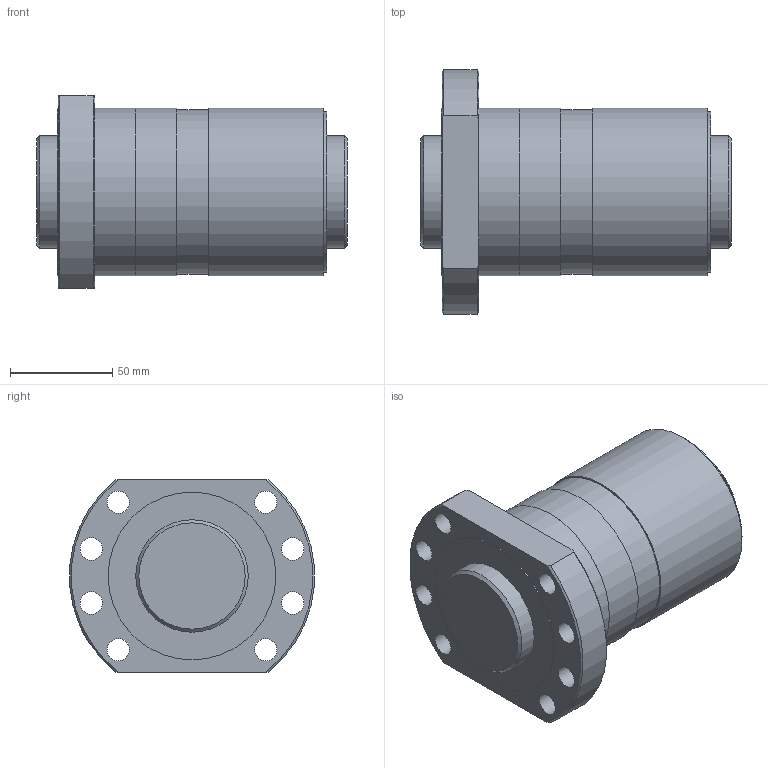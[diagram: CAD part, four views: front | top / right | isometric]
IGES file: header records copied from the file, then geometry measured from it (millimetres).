
Start section: Data from Parasolid IGES Translator 26.0.171, Copyright(c) 2006 Siemens PLM Software. All Rights Reserved.
Global section: file name: SDAN5512VAX-4G0+152LC0(0G000).igs; native system: By Siemens PLM Incorporated; preprocessor: XPlus GENERIC/IGES 26.0.171; author: Noname; organization: Noname; date: 20240704.102144; units: millimetre
Bounding box: 152 x 119.6 x 94 mm (x, y, z)
Surface area: 109355.6 mm2 (no closed solid volume)
Topology: 0 solids, 0 shells, 41 faces, 178 edges, 154 vertices
Faces by surface type: revolution 28, extrusion 13
